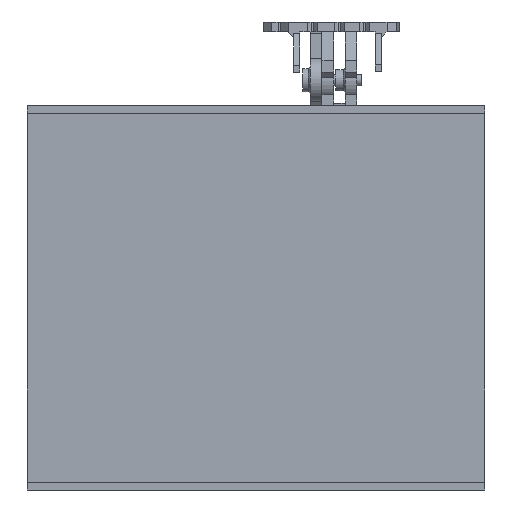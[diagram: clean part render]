
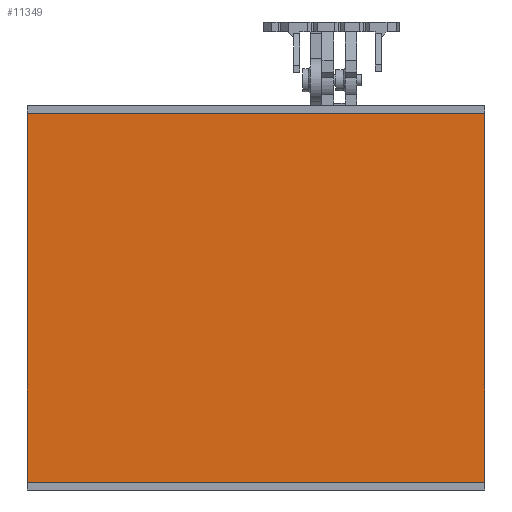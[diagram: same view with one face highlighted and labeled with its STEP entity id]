
A CAD part, front view. The second image highlights one B-rep face of the part: STEP entity #11349.
In plain terms, the highlighted planar face has unit normal (0, -1, 0).
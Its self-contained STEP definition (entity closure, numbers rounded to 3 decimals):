
#11349=ADVANCED_FACE('',(#17860),#15105,.F.);
#15105=PLANE('',#81123);
#17860=FACE_OUTER_BOUND('',#21752,.T.);
#21752=EDGE_LOOP('',(#28235,#28236,#28237,#28238));
#28235=ORIENTED_EDGE('',*,*,#54851,.F.);
#28236=ORIENTED_EDGE('',*,*,#54857,.T.);
#28237=ORIENTED_EDGE('',*,*,#54823,.T.);
#28238=ORIENTED_EDGE('',*,*,#54812,.T.);
#47555=VERTEX_POINT('',#110130);
#47556=VERTEX_POINT('',#110132);
#47565=VERTEX_POINT('',#110153);
#47584=VERTEX_POINT('',#110202);
#54812=EDGE_CURVE('',#47556,#47555,#65009,.T.);
#54823=EDGE_CURVE('',#47565,#47556,#65015,.T.);
#54851=EDGE_CURVE('',#47584,#47555,#65024,.T.);
#54857=EDGE_CURVE('',#47584,#47565,#65028,.T.);
#65009=LINE('',#110131,#73133);
#65015=LINE('',#110152,#73139);
#65024=LINE('',#110203,#73148);
#65028=LINE('',#110212,#73152);
#73133=VECTOR('',#88952,1.);
#73139=VECTOR('',#88970,1.);
#73148=VECTOR('',#89023,1.);
#73152=VECTOR('',#89037,1.);
#81123=AXIS2_PLACEMENT_3D('',#110214,#89040,#89041);
#88952=DIRECTION('',(-1.,0.,0.));
#88970=DIRECTION('',(0.,0.,1.));
#89023=DIRECTION('',(0.,0.,1.));
#89037=DIRECTION('',(1.,0.,0.));
#89040=DIRECTION('',(0.,1.,0.));
#89041=DIRECTION('',(-1.,0.,0.));
#110130=CARTESIAN_POINT('',(-29.,-79.,148.5));
#110131=CARTESIAN_POINT('',(90.,-79.,148.5));
#110132=CARTESIAN_POINT('',(89.,-79.,148.5));
#110152=CARTESIAN_POINT('',(89.,-79.,0.));
#110153=CARTESIAN_POINT('',(89.,-79.,53.376));
#110202=CARTESIAN_POINT('',(-29.,-79.,53.376));
#110203=CARTESIAN_POINT('',(-29.,-79.,0.));
#110212=CARTESIAN_POINT('',(90.,-79.,53.376));
#110214=CARTESIAN_POINT('',(90.,-79.,0.));
